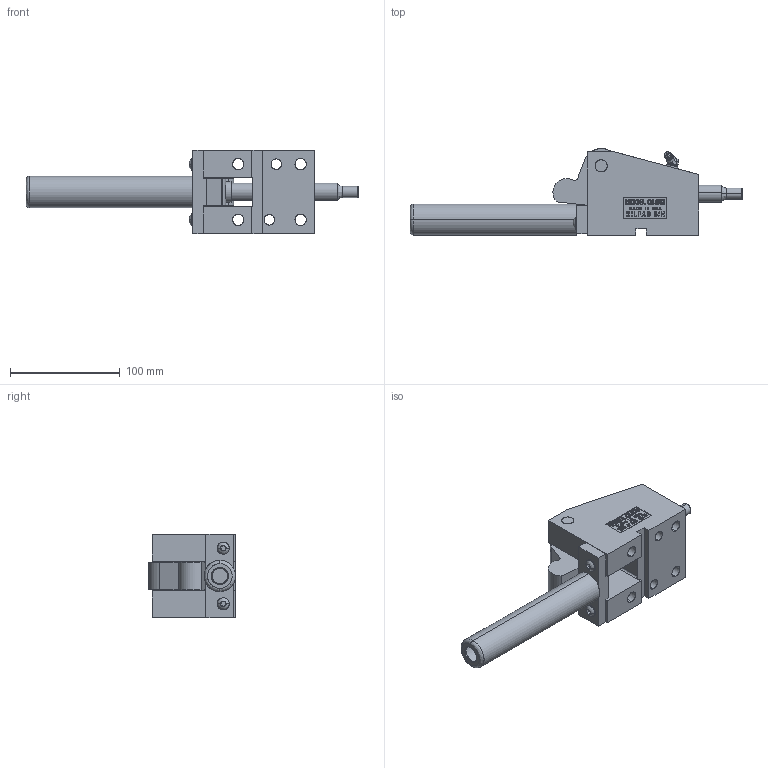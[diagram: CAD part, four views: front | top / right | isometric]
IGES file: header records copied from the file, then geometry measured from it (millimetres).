
Start section: SolidWorks IGES file using analytic representation for surfaces
Global section: file name: Y:\JIM'S INCH CAM UNITS\OL62545\CLOSED\OL62545-C.IGS; native system: SolidWorks 2006 by SolidWorks Corporation; preprocessor: SolidWorks 2006 by SolidWorks Corporation; author: Jim; date: 090205.111353; units: inch
Bounding box: 303.07 x 79.37 x 76.2 mm (x, y, z)
Surface area: 115949.9 mm2 (no closed solid volume)
Topology: 0 solids, 0 shells, 593 faces, 7761 edges, 7759 vertices
Faces by surface type: bspline 465, revolution 128
